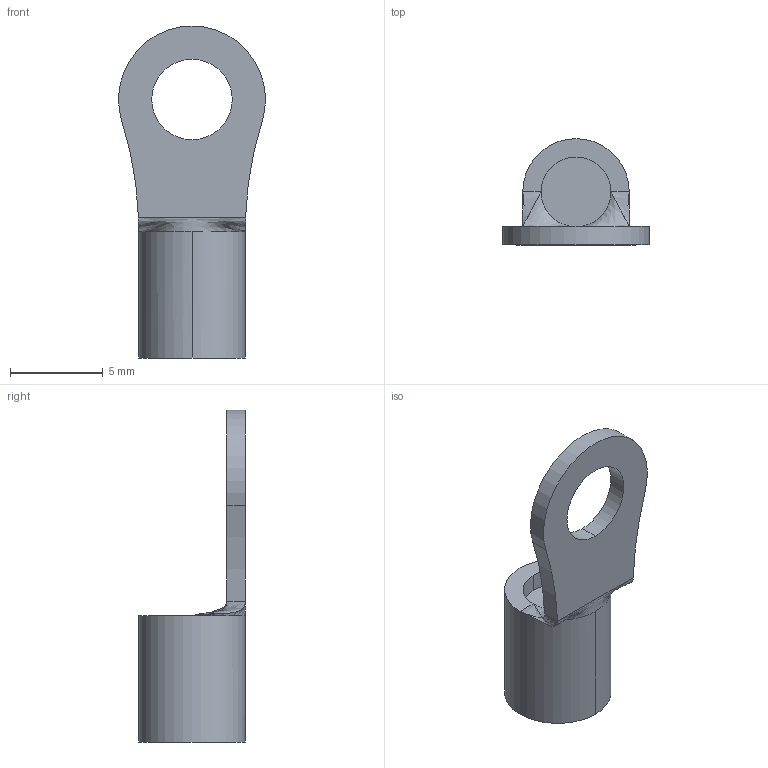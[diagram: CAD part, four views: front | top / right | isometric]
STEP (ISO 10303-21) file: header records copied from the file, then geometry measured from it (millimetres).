
FILE_DESCRIPTION((''),'2;1');
FILE_NAME('C-322454','2018-08-30T',('workeradm'),('TE Connectivity Ltd.'),'CREO PARAMETRIC BY PTC INC, 2016050','CREO PARAMETRIC BY PTC INC, 2016050','');
FILE_SCHEMA(('AUTOMOTIVE_DESIGN { 1 0 10303 214 1 1 1 1 }'));
Length unit declared in the file: millimetre
Products named in the file (1): C-322454
Bounding box: 7.91 x 5.74 x 17.9 mm (x, y, z)
Volume: 210.1 mm3; surface area: 350.3 mm2
Topology: 1 solids, 1 shells, 21 faces, 53 edges, 34 vertices
Faces by surface type: cylinder 11, plane 6, bspline 4
Entity records: 889 total; most frequent: CARTESIAN_POINT 343, DIRECTION 104, ORIENTED_EDGE 104, EDGE_CURVE 52, AXIS2_PLACEMENT_3D 44, VERTEX_POINT 34, CIRCLE 27, EDGE_LOOP 24
